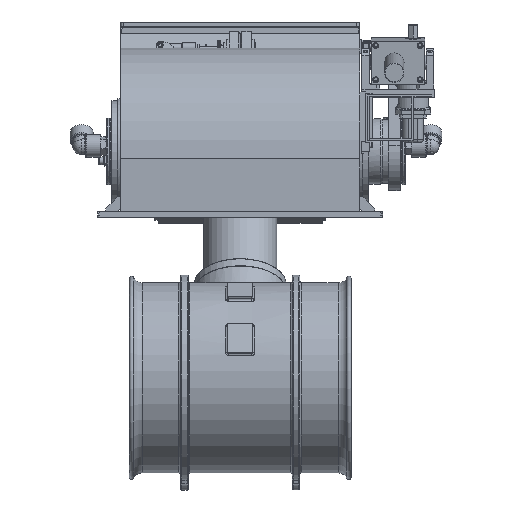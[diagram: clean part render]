
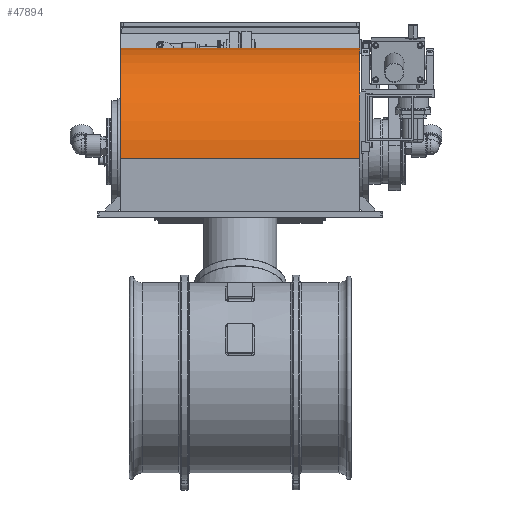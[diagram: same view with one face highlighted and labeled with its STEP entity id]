
A CAD part, front view. The second image highlights one B-rep face of the part: STEP entity #47894.
In plain terms, the highlighted cylindrical face has radius 372 mm (diameter 744 mm), a partial arc.
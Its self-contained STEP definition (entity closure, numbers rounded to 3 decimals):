
#3435=LINE('',#76668,#7324);
#3442=LINE('',#76681,#7331);
#7324=VECTOR('',#59602,10.);
#7331=VECTOR('',#59617,10.);
#11672=FACE_OUTER_BOUND('',#14353,.T.);
#14353=EDGE_LOOP('',(#35922,#35923,#35924,#35925));
#16833=CIRCLE('',#51075,372.);
#16834=CIRCLE('',#51083,372.);
#20846=VERTEX_POINT('',#76665);
#20847=VERTEX_POINT('',#76667);
#20848=VERTEX_POINT('',#76676);
#20849=VERTEX_POINT('',#76680);
#26354=EDGE_CURVE('',#20846,#20847,#3435,.T.);
#26360=EDGE_CURVE('',#20847,#20848,#16833,.T.);
#26362=EDGE_CURVE('',#20849,#20848,#3442,.T.);
#26387=EDGE_CURVE('',#20849,#20846,#16834,.T.);
#35922=ORIENTED_EDGE('',*,*,#26354,.F.);
#35923=ORIENTED_EDGE('',*,*,#26387,.F.);
#35924=ORIENTED_EDGE('',*,*,#26362,.T.);
#35925=ORIENTED_EDGE('',*,*,#26360,.F.);
#43672=CYLINDRICAL_SURFACE('',#51085,372.);
#47894=ADVANCED_FACE('',(#11672),#43672,.T.);
#51075=AXIS2_PLACEMENT_3D('',#76677,#59612,#59613);
#51083=AXIS2_PLACEMENT_3D('',#76722,#59654,#59655);
#51085=AXIS2_PLACEMENT_3D('',#76724,#59658,#59659);
#59602=DIRECTION('',(1.,0.,0.));
#59612=DIRECTION('center_axis',(1.,0.,0.));
#59613=DIRECTION('ref_axis',(0.,0.,
1.));
#59617=DIRECTION('',(1.,0.,0.));
#59654=DIRECTION('center_axis',(-1.,0.,0.));
#59655=DIRECTION('ref_axis',(0.,-1.,0.));
#59658=DIRECTION('center_axis',(-1.,0.,0.));
#59659=DIRECTION('ref_axis',(0.,-1.,0.));
#76665=CARTESIAN_POINT('',(-159.919,-310.37,537.5));
#76667=CARTESIAN_POINT('',(644.081,-310.37,537.5));
#76668=CARTESIAN_POINT('',(242.081,-310.37,537.5));
#76676=CARTESIAN_POINT('',(644.081,-682.37,165.5));
#76677=CARTESIAN_POINT('Origin',(644.081,-310.37,165.5));
#76680=CARTESIAN_POINT('',(-159.919,-682.37,165.5));
#76681=CARTESIAN_POINT('',(242.081,-682.37,165.5));
#76722=CARTESIAN_POINT('Origin',(-159.919,-310.37,165.5));
#76724=CARTESIAN_POINT('Origin',(242.081,-310.37,165.5));
